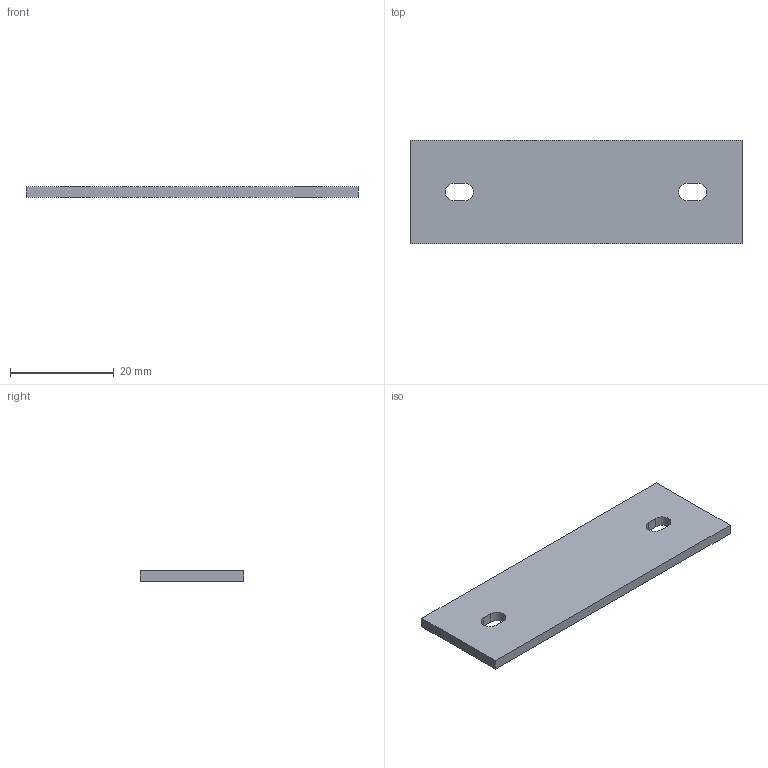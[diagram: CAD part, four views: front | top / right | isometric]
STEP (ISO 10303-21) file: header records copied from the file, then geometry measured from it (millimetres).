
FILE_DESCRIPTION(('Open CASCADE Model'),'2;1');
FILE_NAME('Open CASCADE Shape Model','2026-10-14T18:58:52',('Author'),( 'Open CASCADE'),'Open CASCADE STEP processor 7.8','Open CASCADE 7.8' ,'Unknown');
FILE_SCHEMA(('AUTOMOTIVE_DESIGN { 1 0 10303 214 1 1 1 1 }'));
Length unit declared in the file: millimetre
Products named in the file (1): Open CASCADE STEP translator 7.8 3
Bounding box: 64 x 20 x 2 mm (x, y, z)
Volume: 2496.5 mm3; surface area: 2891.2 mm2
Topology: 1 solids, 1 shells, 14 faces, 36 edges, 24 vertices
Faces by surface type: plane 10, cylinder 4
Entity records: 922 total; most frequent: CARTESIAN_POINT 211, DIRECTION 122, LINE 76, VECTOR 76, ORIENTED_EDGE 72, PCURVE 72, DEFINITIONAL_REPRESENTATION 72, EDGE_CURVE 36
